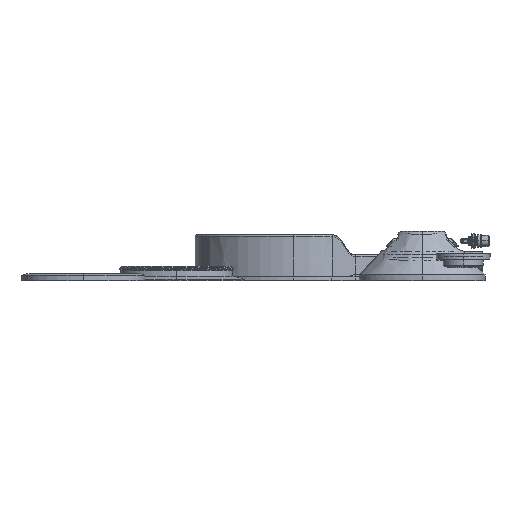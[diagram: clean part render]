
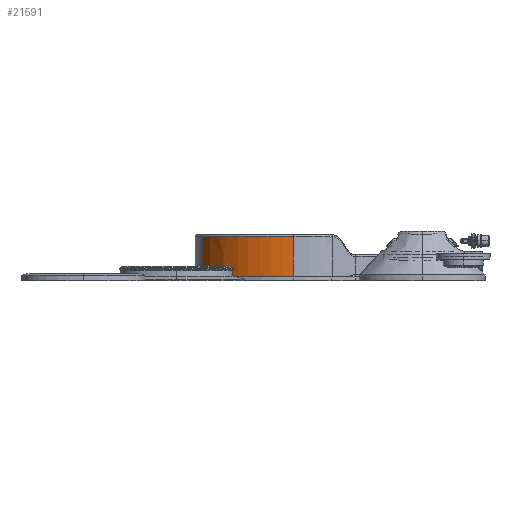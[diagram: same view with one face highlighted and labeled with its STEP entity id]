
A CAD part, left-side view. The second image highlights one B-rep face of the part: STEP entity #21591.
In plain terms, the highlighted free-form (B-spline) face has degree [3, 2] with [8, 3] control points.
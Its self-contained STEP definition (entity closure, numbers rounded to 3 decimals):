
#5919=ORIENTED_EDGE('trim curve',*,*,#12433,.F.);
#5920=ORIENTED_EDGE('trim curve',*,*,#12259,.F.);
#5921=ORIENTED_EDGE('trim curve',*,*,#12438,.T.);
#5922=ORIENTED_EDGE('trim curve',*,*,#12439,.T.);
#9059=VERTEX_POINT('Trimming Point',#61818);
#9062=VERTEX_POINT('Trimming Point',#61826);
#9161=VERTEX_POINT('Trimming Point',#63108);
#9164=VERTEX_POINT('Trimming Point',#63161);
#12259=EDGE_CURVE('Edge Curve',#9062,#9059,#15790,.T.);
#12433=EDGE_CURVE('Edge Curve',#9059,#9161,#15964,.T.);
#12438=EDGE_CURVE('Edge Curve',#9062,#9164,#15969,.T.);
#12439=EDGE_CURVE('Edge Curve',#9164,#9161,#15970,.T.);
#15790=(
BOUNDED_CURVE()
B_SPLINE_CURVE(3,(#61827,#61828,#61829,#61830,#61831),.UNSPECIFIED.,.U.,
 .U.)
B_SPLINE_CURVE_WITH_KNOTS((4,1,4),(0.,0.333,1.),.UNSPECIFIED.)
CURVE()
GEOMETRIC_REPRESENTATION_ITEM()
RATIONAL_B_SPLINE_CURVE((1.,1.,1.,1.,1.))
REPRESENTATION_ITEM('node')
);
#15964=(
BOUNDED_CURVE()
B_SPLINE_CURVE(2,(#63106,#63107,#63108),.UNSPECIFIED.,.U.,.U.)
B_SPLINE_CURVE_WITH_KNOTS((3,3),(0.,1.456),.UNSPECIFIED.)
CURVE()
GEOMETRIC_REPRESENTATION_ITEM()
RATIONAL_B_SPLINE_CURVE((1.,1.,1.))
REPRESENTATION_ITEM('node')
);
#15969=(
BOUNDED_CURVE()
B_SPLINE_CURVE(2,(#63159,#63160,#63161),.UNSPECIFIED.,.U.,.U.)
B_SPLINE_CURVE_WITH_KNOTS((3,3),(-2.956,0.),.UNSPECIFIED.)
CURVE()
GEOMETRIC_REPRESENTATION_ITEM()
RATIONAL_B_SPLINE_CURVE((1.,1.,1.))
REPRESENTATION_ITEM('node')
);
#15970=(
BOUNDED_CURVE()
B_SPLINE_CURVE(3,(#63162,#63163,#63164,#63165,#63166),.UNSPECIFIED.,.U.,
 .U.)
B_SPLINE_CURVE_WITH_KNOTS((4,1,4),(-1.5,-1.,0.),.UNSPECIFIED.)
CURVE()
GEOMETRIC_REPRESENTATION_ITEM()
RATIONAL_B_SPLINE_CURVE((1.,1.,1.,1.,1.))
REPRESENTATION_ITEM('node')
);
#17664=EDGE_LOOP('trim boundary',(#5919,#5920,#5921,#5922));
#18993=FACE_OUTER_BOUND('Boundary Edges',#17664,.T.);
#20292=(
BOUNDED_SURFACE()
B_SPLINE_SURFACE(3,2,((#63135,#63136,#63137),(#63138,#63139,#63140),(#63141,
#63142,#63143),(#63144,#63145,#63146),(#63147,#63148,#63149),(#63150,#63151,
#63152),(#63153,#63154,#63155),(#63156,#63157,#63158)),.UNSPECIFIED.,.U.,
 .U.,.U.)
B_SPLINE_SURFACE_WITH_KNOTS((4,1,1,1,1,4),(3,3),(0.,1.,2.,3.,4.,5.),(0.,
1.456),.UNSPECIFIED.)
GEOMETRIC_REPRESENTATION_ITEM()
RATIONAL_B_SPLINE_SURFACE(((1.,1.,1.),(1.,1.,1.),(1.,1.,1.),(1.,1.,1.),(1.,
1.,1.),(1.,1.,1.),(1.,1.,1.),(1.,1.,1.)))
REPRESENTATION_ITEM('trim region')
SURFACE()
);
#21591=ADVANCED_FACE('trim region',(#18993),#20292,.T.);
#61818=CARTESIAN_POINT('CVs',(-71.535,148.477,3.188));
#61826=CARTESIAN_POINT('CVs',(-27.426,216.538,3.188));
#61827=CARTESIAN_POINT('CVs',(-27.426,216.538,3.188));
#61828=CARTESIAN_POINT('CVs',(-35.908,212.956,3.188));
#61829=CARTESIAN_POINT('CVs',(-59.441,197.006,3.188));
#61830=CARTESIAN_POINT('CVs',(-71.208,167.992,3.188));
#61831=CARTESIAN_POINT('CVs',(-71.535,148.477,3.188));
#63106=CARTESIAN_POINT('CVs',(-71.535,148.477,3.188));
#63107=CARTESIAN_POINT('CVs',(-71.535,148.477,17.968));
#63108=CARTESIAN_POINT('CVs',(-71.535,148.477,32.748));
#63135=CARTESIAN_POINT('CVs',(67.758,145.902,32.748));
#63136=CARTESIAN_POINT('CVs',(67.758,145.902,17.968));
#63137=CARTESIAN_POINT('CVs',(67.758,145.902,3.188));
#63138=CARTESIAN_POINT('CVs',(68.047,165.325,32.748));
#63139=CARTESIAN_POINT('CVs',(68.047,165.325,17.968));
#63140=CARTESIAN_POINT('CVs',(68.047,165.325,3.188));
#63141=CARTESIAN_POINT('CVs',(53.517,204.637,32.748));
#63142=CARTESIAN_POINT('CVs',(53.517,204.637,17.968));
#63143=CARTESIAN_POINT('CVs',(53.517,204.637,3.188));
#63144=CARTESIAN_POINT('CVs',(-0.607,229.868,32.748));
#63145=CARTESIAN_POINT('CVs',(-0.607,229.868,17.968));
#63146=CARTESIAN_POINT('CVs',(-0.607,229.868,3.188));
#63147=CARTESIAN_POINT('CVs',(-55.519,206.677,32.748));
#63148=CARTESIAN_POINT('CVs',(-55.519,206.677,17.968));
#63149=CARTESIAN_POINT('CVs',(-55.519,206.677,3.188));
#63150=CARTESIAN_POINT('CVs',(-79.053,148.65,32.748));
#63151=CARTESIAN_POINT('CVs',(-79.053,148.65,17.968));
#63152=CARTESIAN_POINT('CVs',(-79.053,148.65,3.188));
#63153=CARTESIAN_POINT('CVs',(-64.672,109.275,32.748));
#63154=CARTESIAN_POINT('CVs',(-64.672,109.275,17.968));
#63155=CARTESIAN_POINT('CVs',(-64.672,109.275,3.188));
#63156=CARTESIAN_POINT('CVs',(-52.105,95.282,32.748));
#63157=CARTESIAN_POINT('CVs',(-52.105,95.282,17.968));
#63158=CARTESIAN_POINT('CVs',(-52.105,95.282,3.188));
#63159=CARTESIAN_POINT('CVs',(-27.426,216.538,3.188));
#63160=CARTESIAN_POINT('CVs',(-27.426,216.538,17.968));
#63161=CARTESIAN_POINT('CVs',(-27.426,216.538,32.748));
#63162=CARTESIAN_POINT('CVs',(-27.426,216.538,32.748));
#63163=CARTESIAN_POINT('CVs',(-35.908,212.956,32.748));
#63164=CARTESIAN_POINT('CVs',(-59.441,197.006,32.748));
#63165=CARTESIAN_POINT('CVs',(-71.208,167.992,32.748));
#63166=CARTESIAN_POINT('CVs',(-71.535,148.477,32.748));
